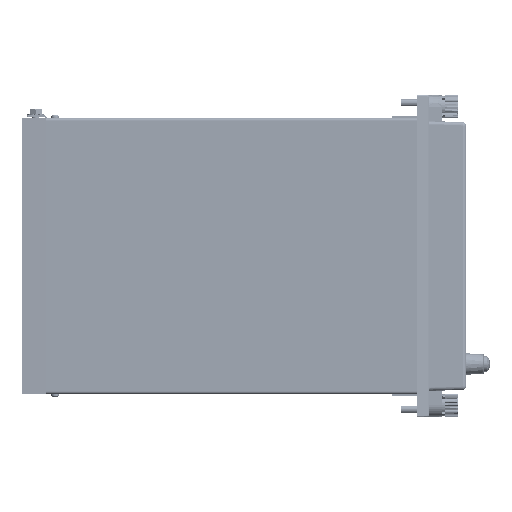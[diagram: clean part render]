
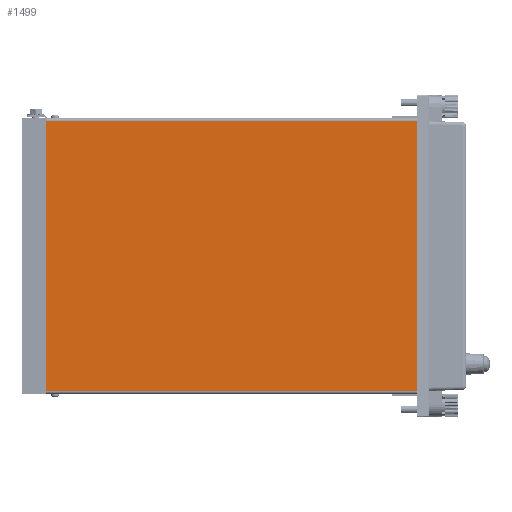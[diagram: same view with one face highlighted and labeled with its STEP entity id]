
A CAD part, left-side view. The second image highlights one B-rep face of the part: STEP entity #1499.
In plain terms, the highlighted planar face has unit normal (-1, 0, 0).
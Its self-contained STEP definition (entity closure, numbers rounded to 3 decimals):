
#1343=CARTESIAN_POINT('',(-223.,0.,-741.0));
#1344=VERTEX_POINT('',#1343);
#1352=CARTESIAN_POINT('',(-223.,2080.,-741.));
#1353=VERTEX_POINT('',#1352);
#1354=CARTESIAN_POINT('',(-223.,0.,-741.0));
#1355=DIRECTION('',(0.0,1.0,0.0));
#1356=VECTOR('',#1355,2080.0);
#1357=LINE('',#1354,#1356);
#1358=EDGE_CURVE('',#1344,#1353,#1357,.T.);
#1384=CARTESIAN_POINT('',(-223.,2080.0,741.));
#1385=VERTEX_POINT('',#1384);
#1386=CARTESIAN_POINT('',(-223.,2080.0,741.));
#1387=DIRECTION('',(0.0,0.0,-1.0));
#1388=VECTOR('',#1387,1482.0);
#1389=LINE('',#1386,#1388);
#1390=EDGE_CURVE('',#1385,#1353,#1389,.T.);
#1476=CARTESIAN_POINT('',(-223.,50.0,746.));
#1477=DIRECTION('',(-1.0,0.0,0.0));
#1478=DIRECTION('',(0.0,0.0,1.0));
#1479=AXIS2_PLACEMENT_3D('',#1476,#1477,#1478);
#1480=PLANE('',#1479);
#1481=ORIENTED_EDGE('',*,*,#1358,.F.);
#1482=CARTESIAN_POINT('',(-223.,0.,741.0));
#1483=VERTEX_POINT('',#1482);
#1484=CARTESIAN_POINT('',(-223.,0.,-741.0));
#1485=DIRECTION('',(0.0,0.0,1.0));
#1486=VECTOR('',#1485,1482.0);
#1487=LINE('',#1484,#1486);
#1488=EDGE_CURVE('',#1344,#1483,#1487,.T.);
#1489=ORIENTED_EDGE('',*,*,#1488,.T.);
#1490=CARTESIAN_POINT('',(-223.,2080.0,741.));
#1491=DIRECTION('',(0.0,-1.0,0.0));
#1492=VECTOR('',#1491,2080.0);
#1493=LINE('',#1490,#1492);
#1494=EDGE_CURVE('',#1385,#1483,#1493,.T.);
#1495=ORIENTED_EDGE('',*,*,#1494,.F.);
#1496=ORIENTED_EDGE('',*,*,#1390,.T.);
#1497=EDGE_LOOP('',(#1481,#1489,#1495,#1496));
#1498=FACE_OUTER_BOUND('',#1497,.T.);
#1499=ADVANCED_FACE('',(#1498),#1480,.T.);
